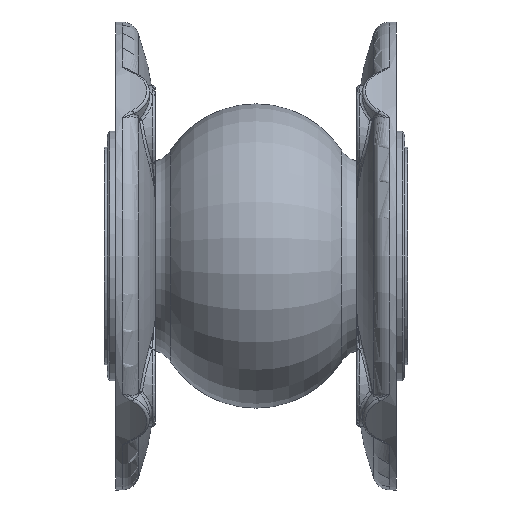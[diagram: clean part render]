
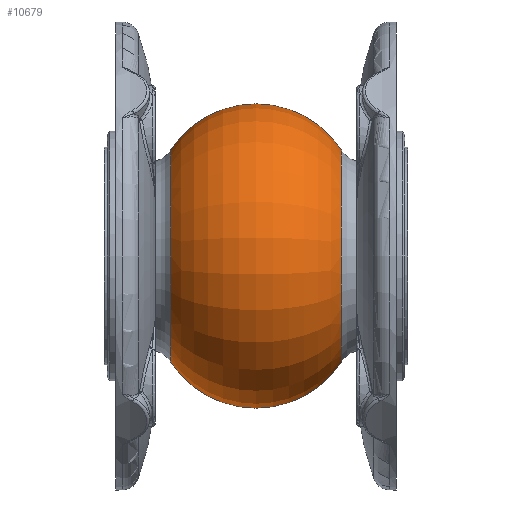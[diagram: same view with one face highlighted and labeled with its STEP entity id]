
A CAD part, left-side view. The second image highlights one B-rep face of the part: STEP entity #10679.
In plain terms, the highlighted toroidal (fillet/blend) face has major radius 17.744 mm and minor radius 35.903 mm.
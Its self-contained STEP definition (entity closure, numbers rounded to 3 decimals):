
#797 = VERTEX_POINT ( 'NONE', #2118 ) ;
#971 = AXIS2_PLACEMENT_3D ( 'NONE', #973, #4386, #6591 ) ;
#973 = CARTESIAN_POINT ( 'NONE',  ( 0., 52.5, 17.744 ) ) ;
#1157 = EDGE_CURVE ( 'NONE', #11737, #3717, #2614, .T. ) ;
#1711 = DIRECTION ( 'NONE',  ( 0., -1., 0. ) ) ;
#1806 = ORIENTED_EDGE ( 'NONE', *, *, #2563, .F. ) ;
#2118 = CARTESIAN_POINT ( 'NONE',  ( 0., 82.48, 37.498 ) ) ;
#2187 = CARTESIAN_POINT ( 'NONE',  ( 0., 52.5, 0. ) ) ;
#2563 = EDGE_CURVE ( 'NONE', #797, #13313, #12527, .T. ) ;
#2614 = CIRCLE ( 'NONE', #13034, 35.903 ) ;
#2942 = CIRCLE ( 'NONE', #11796, 37.498 ) ;
#2964 = FACE_OUTER_BOUND ( 'NONE', #7677, .T. ) ;
#3124 = EDGE_CURVE ( 'NONE', #13313, #3717, #12430, .T. ) ;
#3691 = CARTESIAN_POINT ( 'NONE',  ( 0., 52.5, -17.744 ) ) ;
#3717 = VERTEX_POINT ( 'NONE', #6223 ) ;
#3925 = DIRECTION ( 'NONE',  ( 0., 0., -1. ) ) ;
#4139 = EDGE_CURVE ( 'NONE', #797, #11737, #2942, .T. ) ;
#4386 = DIRECTION ( 'NONE',  ( 1., 0., 0. ) ) ;
#4545 = CARTESIAN_POINT ( 'NONE',  ( 0., 22.52, 0. ) ) ;
#5513 = ORIENTED_EDGE ( 'NONE', *, *, #3124, .F. ) ;
#5651 = CARTESIAN_POINT ( 'NONE',  ( 0., 82.48, -37.498 ) ) ;
#6223 = CARTESIAN_POINT ( 'NONE',  ( 0., 22.52, -37.498 ) ) ;
#6591 = DIRECTION ( 'NONE',  ( 0., 0., -1. ) ) ;
#6749 = DIRECTION ( 'NONE',  ( 0., -1., 0. ) ) ;
#7677 = EDGE_LOOP ( 'NONE', ( #1806, #13376, #13440, #5513 ) ) ;
#7818 = AXIS2_PLACEMENT_3D ( 'NONE', #2187, #14039, #11915 ) ;
#7961 = DIRECTION ( 'NONE',  ( 0., 0., -1. ) ) ;
#8236 = DIRECTION ( 'NONE',  ( 0., 0., 1. ) ) ;
#9100 = DIRECTION ( 'NONE',  ( -1., 0., 0. ) ) ;
#9481 = AXIS2_PLACEMENT_3D ( 'NONE', #4545, #6749, #7961 ) ;
#10297 = TOROIDAL_SURFACE ( 'NONE', #7818, 17.744, 35.903 ) ;
#10679 = ADVANCED_FACE ( 'NONE', ( #2964 ), #10297, .T. ) ;
#11581 = CARTESIAN_POINT ( 'NONE',  ( 0., 82.48, 0. ) ) ;
#11737 = VERTEX_POINT ( 'NONE', #5651 ) ;
#11796 = AXIS2_PLACEMENT_3D ( 'NONE', #11581, #1711, #3925 ) ;
#11915 = DIRECTION ( 'NONE',  ( 0., 0., -1. ) ) ;
#12430 = CIRCLE ( 'NONE', #9481, 37.498 ) ;
#12527 = CIRCLE ( 'NONE', #971, 35.903 ) ;
#13034 = AXIS2_PLACEMENT_3D ( 'NONE', #3691, #9100, #8236 ) ;
#13313 = VERTEX_POINT ( 'NONE', #14002 ) ;
#13376 = ORIENTED_EDGE ( 'NONE', *, *, #4139, .T. ) ;
#13440 = ORIENTED_EDGE ( 'NONE', *, *, #1157, .T. ) ;
#14002 = CARTESIAN_POINT ( 'NONE',  ( 0., 22.52, 37.498 ) ) ;
#14039 = DIRECTION ( 'NONE',  ( 0., -1., 0. ) ) ;
